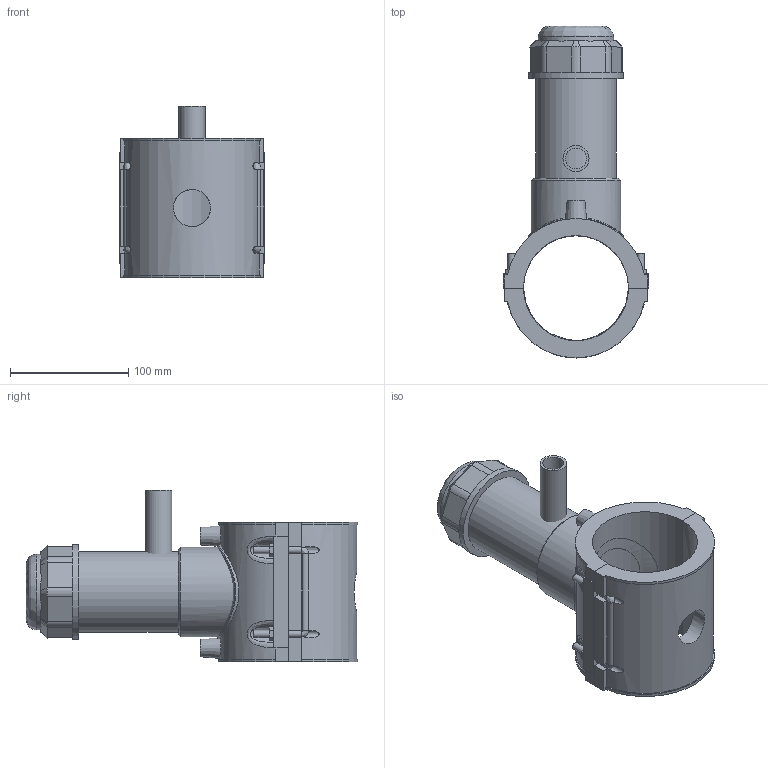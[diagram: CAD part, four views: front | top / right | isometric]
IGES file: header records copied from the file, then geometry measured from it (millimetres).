
Global section: file name: 5963BUP3030007.ipt; native system: Autodesk Inventor 2019; preprocessor: unknown; author: KIM; date: 20210830.101613; units: inch
Bounding box: 122.9 x 280.2 x 145.16 mm (x, y, z)
Volume: 932220.7 mm3; surface area: 189730.2 mm2
Topology: 3 solids, 3 shells, 204 faces, 526 edges, 343 vertices
Faces by surface type: plane 125, cylinder 37, revolution 21, cone 15, bspline 6
Full cylindrical faces by diameter (mm): 4 x2, 6 x8, 22.1 x1, 63.864 x1, 67.856 x1, 75.839 x1, 79.83 x1
